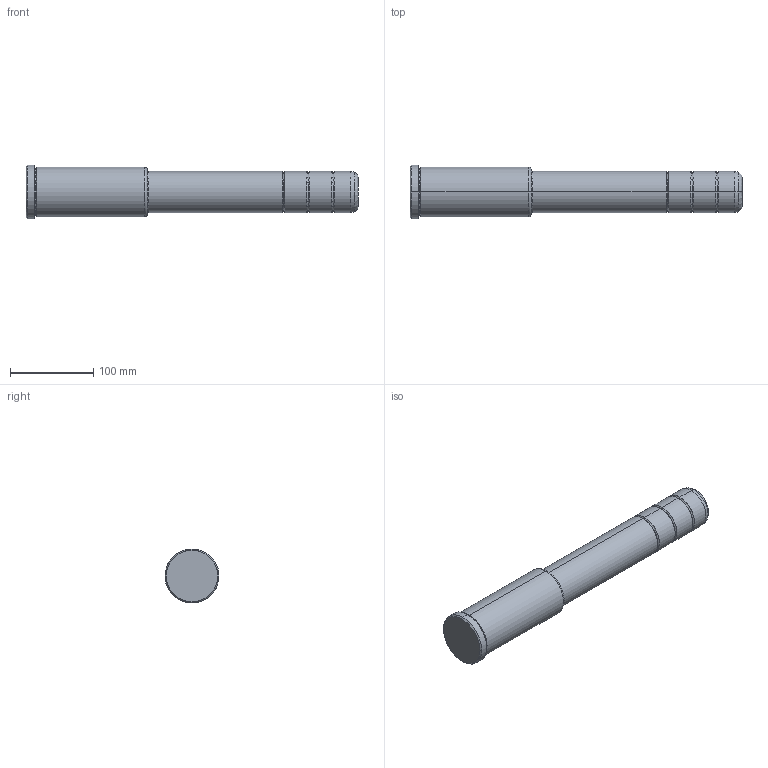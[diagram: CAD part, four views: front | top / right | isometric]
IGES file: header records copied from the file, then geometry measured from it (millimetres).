
Start section: START RECORD GO HERE.
Global section: file name: 351-50X146X400.igs; native system: DASSAULT SYSTEMES CATIA V5 R20 - www.3ds.com; preprocessor: CATIA Version 5 Release 20 ; author: Utente; organization: NB04-ASUS; date: 20211108.200219; units: millimetre
Bounding box: 400 x 65 x 65 mm (x, y, z)
Surface area: 74083.2 mm2 (no closed solid volume)
Topology: 0 solids, 0 shells, 41 faces, 228 edges, 228 vertices
Faces by surface type: revolution 38, plane 3
